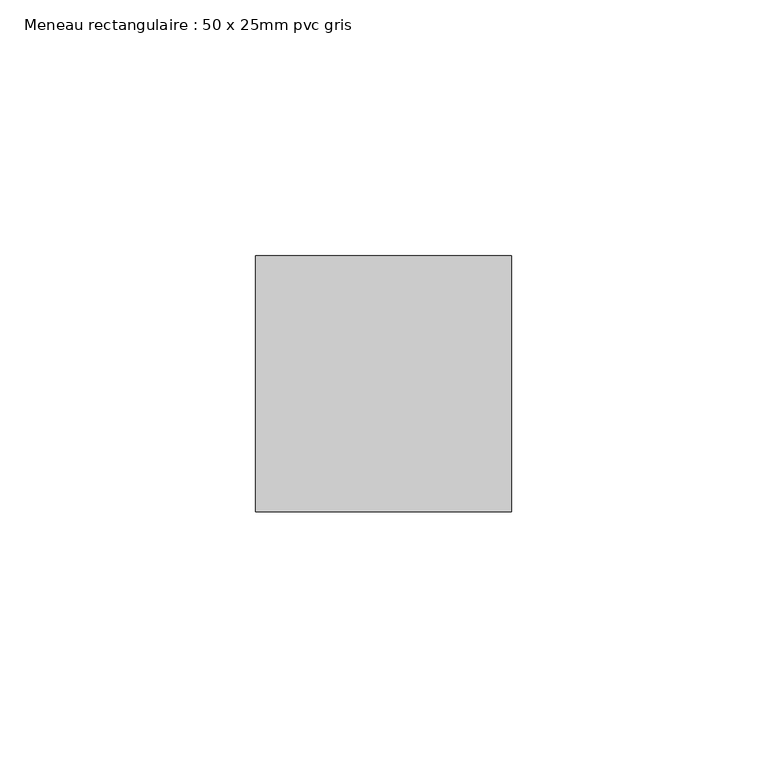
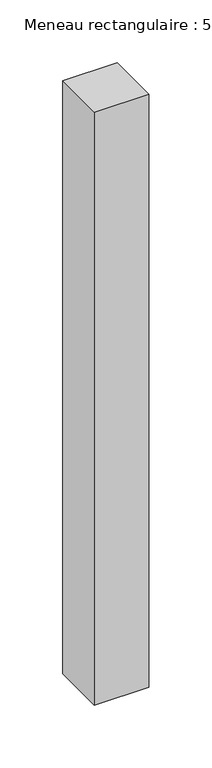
"""IFC4 building model written with IfcOpenShell, lengths in millimetres: member geometry, Meneau rectangulaire : 50 x 25mm pvc gris."""

from ifc_helpers import new_model, si_unit, frame, origin, place, context, project, spatial, polyline, outline, extrude, source, transform, mapped, element, save


def meneau_rectangulaire_50_x_25mm_pvc_gris_fcd22d10(model_context):
    return source(origin(), model_context, "Body", "SweptSolid", [
        extrude(outline(polyline([(0.0, 0.0), (0.0, -50.0), (-50.0, -50.0), (-50.0, 0.0), (0.0, 0.0)])), frame((0.0, 0.0, -576.0), z_axis=(0.0, 0.0, 1.0), x_axis=(1.0, 0.0, 0.0)), (0.0, 0.0, 1.0), 576.0),
    ])


if __name__ == "__main__":
    model = new_model("IFC4")
    model_context = context("Model", 3, world=origin())
    ifc_project = project(units=[si_unit("LENGTHUNIT", "METRE", prefix="MILLI")], contexts=[model_context])
    site = spatial("IfcSite", under=ifc_project)
    building = spatial("IfcBuilding", under=site)
    placement = place(None, origin())
    meneau_rectangulaire_50_x_25mm_pvc_gris_shape = meneau_rectangulaire_50_x_25mm_pvc_gris_fcd22d10(model_context)
    element("IfcMember", 1, ObjectType="Meneau rectangulaire : 50 x 25mm pvc gris", at=placement, inside=building, context=model_context, shape_type="MappedRepresentation", body=[
        mapped(meneau_rectangulaire_50_x_25mm_pvc_gris_shape, transform((0.0, 0.0, 0.0), x_axis=(1.0, 0.0, 0.0), y_axis=(0.0, 1.0, 0.0), z_axis=(0.0, 0.0, 1.0))),
    ])
    save(model, "model.ifc")
